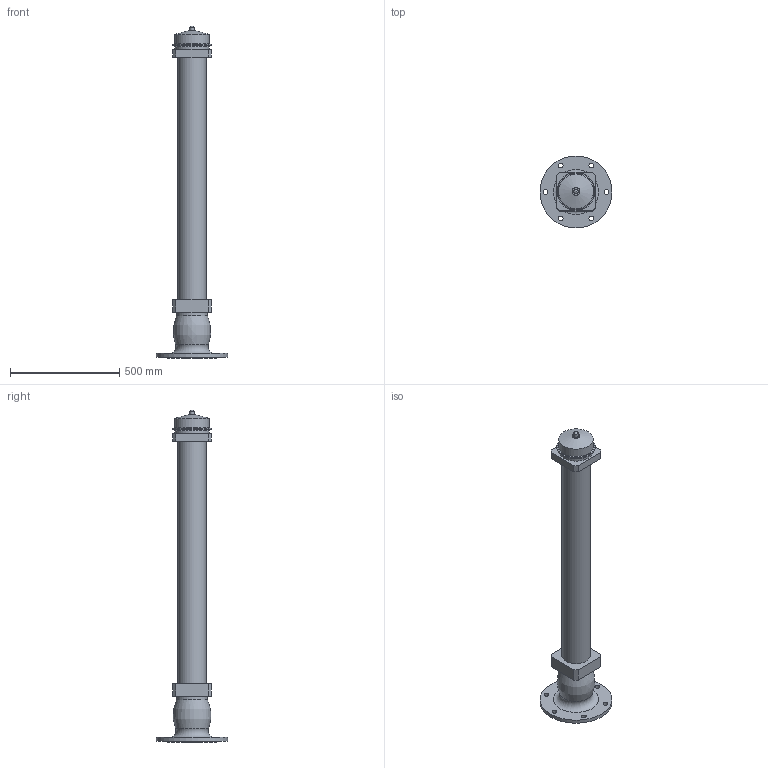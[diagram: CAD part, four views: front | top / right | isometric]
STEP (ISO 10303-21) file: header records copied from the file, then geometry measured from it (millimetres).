
FILE_DESCRIPTION(('STEP AP203'), '1');
FILE_NAME('Ãèäðàíò GPP 1500 ïîæàðíûé ïîäçåìíûé', '', ('UNSPECIFIED'), ('UNSPECIFIED'), 'ASCON STEP Converter 1.6', 'ASCON Math Kernel', '');
FILE_SCHEMA(('CONFIG_CONTROL_DESIGN'));
Length unit declared in the file: millimetre
Bounding box: 330 x 330 x 1522 mm (x, y, z)
Volume: 24273753.5 mm3; surface area: 908215.2 mm2
Topology: 1 solids, 1 shells, 47 faces, 104 edges, 67 vertices
Faces by surface type: plane 26, cylinder 12, cone 7, torus 2
Full cylindrical faces by diameter (mm): 20 x1, 22 x6, 129 x1, 142 x1, 143 x1, 157.302 x1, 160 x1
Entity records: 1617 total; most frequent: DIRECTION 212, CARTESIAN_POINT 196, ORIENTED_EDGE 164, EDGE_LOOP 88, AXIS2_PLACEMENT_3D 82, EDGE_CURVE 82, VERTEX_POINT 66, COLOUR_RGB 48
